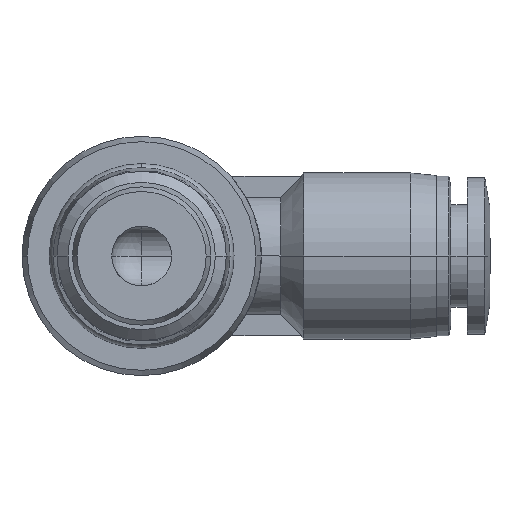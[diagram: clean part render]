
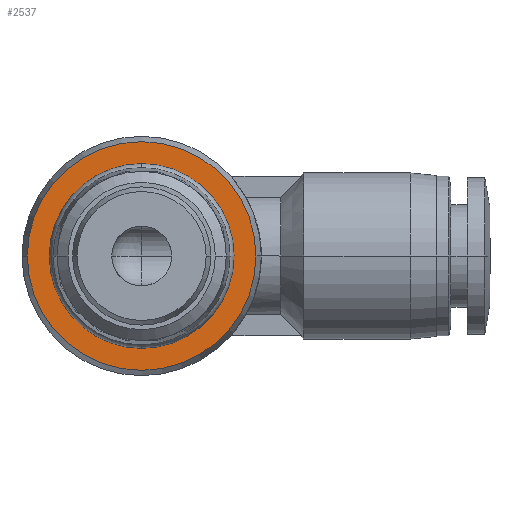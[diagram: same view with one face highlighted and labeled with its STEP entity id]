
A CAD part, front view. The second image highlights one B-rep face of the part: STEP entity #2537.
In plain terms, the highlighted planar face has unit normal (0, -1, 0).
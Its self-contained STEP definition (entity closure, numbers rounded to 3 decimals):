
#652 = CARTESIAN_POINT ( 'NONE',  ( -8.598, 12., 0. ) ) ;
#772 = DIRECTION ( 'NONE',  ( 0., 1., 0. ) ) ;
#843 = ORIENTED_EDGE ( 'NONE', *, *, #5697, .F. ) ;
#885 = CIRCLE ( 'NONE', #7715, 6.7 ) ;
#1082 = CIRCLE ( 'NONE', #9534, 6.7 ) ;
#1244 = VERTEX_POINT ( 'NONE', #652 ) ;
#1445 = EDGE_LOOP ( 'NONE', ( #2709, #6411 ) ) ;
#1531 = CIRCLE ( 'NONE', #6333, 8.598 ) ;
#2143 = CIRCLE ( 'NONE', #9197, 8.598 ) ;
#2537 = ADVANCED_FACE ( 'NONE', ( #8012, #6922 ), #3356, .T. ) ;
#2687 = EDGE_CURVE ( 'NONE', #2692, #3591, #885, .T. ) ;
#2692 = VERTEX_POINT ( 'NONE', #5727 ) ;
#2709 = ORIENTED_EDGE ( 'NONE', *, *, #2687, .T. ) ;
#3132 = VERTEX_POINT ( 'NONE', #9452 ) ;
#3356 = PLANE ( 'NONE',  #4499 ) ;
#3591 = VERTEX_POINT ( 'NONE', #10881 ) ;
#3656 = DIRECTION ( 'NONE',  ( -1., 0., 0. ) ) ;
#4393 = CARTESIAN_POINT ( 'NONE',  ( 0., 12., 0. ) ) ;
#4499 = AXIS2_PLACEMENT_3D ( 'NONE', #8892, #9984, #11861 ) ;
#4603 = DIRECTION ( 'NONE',  ( 0., 1., 0. ) ) ;
#4712 = CARTESIAN_POINT ( 'NONE',  ( 0., 12., 0. ) ) ;
#4907 = EDGE_CURVE ( 'NONE', #3132, #1244, #2143, .T. ) ;
#5508 = CARTESIAN_POINT ( 'NONE',  ( 0., 12., 0. ) ) ;
#5526 = DIRECTION ( 'NONE',  ( 0., 1., 0. ) ) ;
#5697 = EDGE_CURVE ( 'NONE', #1244, #3132, #1531, .T. ) ;
#5727 = CARTESIAN_POINT ( 'NONE',  ( -6.7, 12., 0. ) ) ;
#6333 = AXIS2_PLACEMENT_3D ( 'NONE', #4393, #5526, #7280 ) ;
#6411 = ORIENTED_EDGE ( 'NONE', *, *, #9423, .T. ) ;
#6922 = FACE_BOUND ( 'NONE', #1445, .T. ) ;
#7245 = CARTESIAN_POINT ( 'NONE',  ( 0., 12., 0. ) ) ;
#7280 = DIRECTION ( 'NONE',  ( -1., 0., 0. ) ) ;
#7715 = AXIS2_PLACEMENT_3D ( 'NONE', #7245, #4603, #8444 ) ;
#8012 = FACE_OUTER_BOUND ( 'NONE', #8446, .T. ) ;
#8444 = DIRECTION ( 'NONE',  ( -1., 0., 0. ) ) ;
#8446 = EDGE_LOOP ( 'NONE', ( #843, #10952 ) ) ;
#8892 = CARTESIAN_POINT ( 'NONE',  ( -7.649, 12., 0. ) ) ;
#9197 = AXIS2_PLACEMENT_3D ( 'NONE', #5508, #10304, #11257 ) ;
#9423 = EDGE_CURVE ( 'NONE', #3591, #2692, #1082, .T. ) ;
#9452 = CARTESIAN_POINT ( 'NONE',  ( 8.598, 12., 0. ) ) ;
#9534 = AXIS2_PLACEMENT_3D ( 'NONE', #4712, #772, #3656 ) ;
#9984 = DIRECTION ( 'NONE',  ( 0., -1., 0. ) ) ;
#10304 = DIRECTION ( 'NONE',  ( 0., 1., 0. ) ) ;
#10881 = CARTESIAN_POINT ( 'NONE',  ( 6.7, 12., 0. ) ) ;
#10952 = ORIENTED_EDGE ( 'NONE', *, *, #4907, .F. ) ;
#11257 = DIRECTION ( 'NONE',  ( -1., 0., 0. ) ) ;
#11861 = DIRECTION ( 'NONE',  ( 0., 0., -1. ) ) ;
